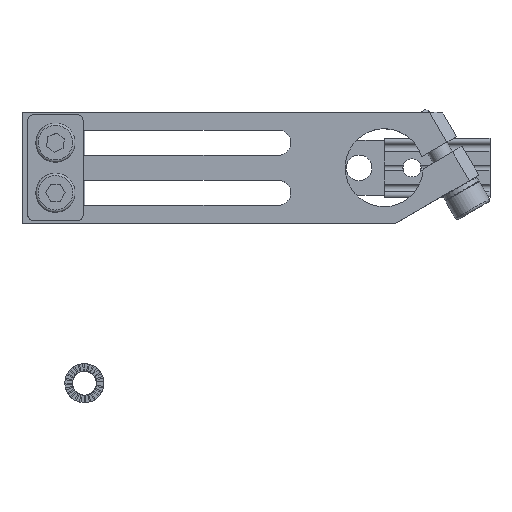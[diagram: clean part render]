
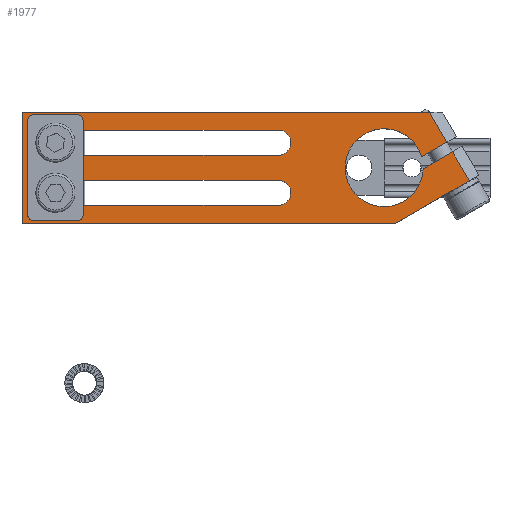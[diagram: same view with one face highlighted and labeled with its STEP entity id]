
A CAD part, top view. The second image highlights one B-rep face of the part: STEP entity #1977.
In plain terms, the highlighted planar face has unit normal (0, 0, 1).
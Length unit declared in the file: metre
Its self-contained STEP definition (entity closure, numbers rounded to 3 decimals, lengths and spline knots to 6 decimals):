
#1977 = ADVANCED_FACE( '', ( #4019, #4020, #4021 ), #4022, .F. );
#4019 = FACE_BOUND( '', #5046, .T. );
#4020 = FACE_BOUND( '', #5047, .T. );
#4021 = FACE_OUTER_BOUND( '', #5048, .T. );
#4022 = PLANE( '', #5049 );
#5046 = EDGE_LOOP( '', ( #6477, #6478, #6479, #6480 ) );
#5047 = EDGE_LOOP( '', ( #6481, #6482, #6483, #6484 ) );
#5048 = EDGE_LOOP( '', ( #6485, #6486, #6487, #6488, #6489, #6490, #6491, #6492, #6493 ) );
#5049 = AXIS2_PLACEMENT_3D( '', #6494, #6495, #6496 );
#6477 = ORIENTED_EDGE( '', *, *, #8825, .F. );
#6478 = ORIENTED_EDGE( '', *, *, #8829, .F. );
#6479 = ORIENTED_EDGE( '', *, *, #8830, .F. );
#6480 = ORIENTED_EDGE( '', *, *, #8831, .F. );
#6481 = ORIENTED_EDGE( '', *, *, #8832, .F. );
#6482 = ORIENTED_EDGE( '', *, *, #8833, .F. );
#6483 = ORIENTED_EDGE( '', *, *, #8834, .F. );
#6484 = ORIENTED_EDGE( '', *, *, #8835, .F. );
#6485 = ORIENTED_EDGE( '', *, *, #8836, .T. );
#6486 = ORIENTED_EDGE( '', *, *, #8837, .T. );
#6487 = ORIENTED_EDGE( '', *, *, #8838, .F. );
#6488 = ORIENTED_EDGE( '', *, *, #8839, .F. );
#6489 = ORIENTED_EDGE( '', *, *, #8840, .F. );
#6490 = ORIENTED_EDGE( '', *, *, #8822, .T. );
#6491 = ORIENTED_EDGE( '', *, *, #8841, .F. );
#6492 = ORIENTED_EDGE( '', *, *, #8842, .F. );
#6493 = ORIENTED_EDGE( '', *, *, #8843, .F. );
#6494 = CARTESIAN_POINT( '', ( -0.065, 0.01, 0.01 ) );
#6495 = DIRECTION( '', ( 0., 0., -1. ) );
#6496 = DIRECTION( '', ( -1., 0., 0. ) );
#8822 = EDGE_CURVE( '', #10035, #10037, #10039, .T. );
#8825 = EDGE_CURVE( '', #10043, #10045, #10046, .T. );
#8829 = EDGE_CURVE( '', #10050, #10043, #10052, .T. );
#8830 = EDGE_CURVE( '', #10053, #10050, #10054, .T. );
#8831 = EDGE_CURVE( '', #10045, #10053, #10055, .T. );
#8832 = EDGE_CURVE( '', #10056, #10057, #10058, .T. );
#8833 = EDGE_CURVE( '', #10059, #10056, #10060, .T. );
#8834 = EDGE_CURVE( '', #10061, #10059, #10062, .T. );
#8835 = EDGE_CURVE( '', #10057, #10061, #10063, .T. );
#8836 = EDGE_CURVE( '', #10064, #10065, #10066, .T. );
#8837 = EDGE_CURVE( '', #10065, #10067, #10068, .T. );
#8838 = EDGE_CURVE( '', #10069, #10067, #10070, .T. );
#8839 = EDGE_CURVE( '', #10071, #10069, #10072, .F. );
#8840 = EDGE_CURVE( '', #10035, #10071, #10073, .T. );
#8841 = EDGE_CURVE( '', #10074, #10037, #10075, .T. );
#8842 = EDGE_CURVE( '', #10076, #10074, #10077, .T. );
#8843 = EDGE_CURVE( '', #10064, #10076, #10078, .T. );
#10035 = VERTEX_POINT( '', #10467 );
#10037 = VERTEX_POINT( '', #10470 );
#10039 = LINE( '', #10473, #10474 );
#10043 = VERTEX_POINT( '', #10479 );
#10045 = VERTEX_POINT( '', #10482 );
#10046 = LINE( '', #10483, #10484 );
#10050 = VERTEX_POINT( '', #10489 );
#10052 = CIRCLE( '', #10492, 0.00225 );
#10053 = VERTEX_POINT( '', #10493 );
#10054 = LINE( '', #10494, #10495 );
#10055 = CIRCLE( '', #10496, 0.00225 );
#10056 = VERTEX_POINT( '', #10497 );
#10057 = VERTEX_POINT( '', #10498 );
#10058 = LINE( '', #10499, #10500 );
#10059 = VERTEX_POINT( '', #10501 );
#10060 = CIRCLE( '', #10502, 0.00225 );
#10061 = VERTEX_POINT( '', #10503 );
#10062 = LINE( '', #10504, #10505 );
#10063 = CIRCLE( '', #10506, 0.00225 );
#10064 = VERTEX_POINT( '', #10507 );
#10065 = VERTEX_POINT( '', #10508 );
#10066 = LINE( '', #10509, #10510 );
#10067 = VERTEX_POINT( '', #10511 );
#10068 = LINE( '', #10512, #10513 );
#10069 = VERTEX_POINT( '', #10514 );
#10070 = LINE( '', #10515, #10516 );
#10071 = VERTEX_POINT( '', #10517 );
#10072 = CIRCLE( '', #10518, 0.007 );
#10073 = LINE( '', #10519, #10520 );
#10074 = VERTEX_POINT( '', #10521 );
#10075 = LINE( '', #10522, #10523 );
#10076 = VERTEX_POINT( '', #10524 );
#10077 = LINE( '', #10525, #10526 );
#10078 = LINE( '', #10527, #10528 );
#10467 = CARTESIAN_POINT( '', ( 0.011268, 0.004588, 0.01 ) );
#10470 = CARTESIAN_POINT( '', ( 0.008144, 0.01, 0.01 ) );
#10473 = CARTESIAN_POINT( '', ( -0.010142, 0.041672, 0.01 ) );
#10474 = VECTOR( '', #11133, 1. );
#10479 = CARTESIAN_POINT( '', ( -0.019, 0.00675, 0.01 ) );
#10482 = CARTESIAN_POINT( '', ( -0.059, 0.00675, 0.01 ) );
#10483 = CARTESIAN_POINT( '', ( -0.019, 0.00675, 0.01 ) );
#10484 = VECTOR( '', #11136, 1. );
#10489 = CARTESIAN_POINT( '', ( -0.019, 0.00225, 0.01 ) );
#10492 = AXIS2_PLACEMENT_3D( '', #11142, #11143, #11144 );
#10493 = CARTESIAN_POINT( '', ( -0.059, 0.00225, 0.01 ) );
#10494 = CARTESIAN_POINT( '', ( -0.019, 0.00225, 0.01 ) );
#10495 = VECTOR( '', #11145, 1. );
#10496 = AXIS2_PLACEMENT_3D( '', #11146, #11147, #11148 );
#10497 = CARTESIAN_POINT( '', ( -0.019, -0.00225, 0.01 ) );
#10498 = CARTESIAN_POINT( '', ( -0.059, -0.00225, 0.01 ) );
#10499 = CARTESIAN_POINT( '', ( -0.019, -0.00225, 0.01 ) );
#10500 = VECTOR( '', #11149, 1. );
#10501 = CARTESIAN_POINT( '', ( -0.019, -0.00675, 0.01 ) );
#10502 = AXIS2_PLACEMENT_3D( '', #11150, #11151, #11152 );
#10503 = CARTESIAN_POINT( '', ( -0.059, -0.00675, 0.01 ) );
#10504 = CARTESIAN_POINT( '', ( -0.019, -0.00675, 0.01 ) );
#10505 = VECTOR( '', #11153, 1. );
#10506 = AXIS2_PLACEMENT_3D( '', #11154, #11155, #11156 );
#10507 = CARTESIAN_POINT( '', ( 0.002, -0.01, 0.01 ) );
#10508 = CARTESIAN_POINT( '', ( 0.015268, -0.00234, 0.01 ) );
#10509 = CARTESIAN_POINT( '', ( -0.03959, -0.034012, 0.01 ) );
#10510 = VECTOR( '', #11157, 1. );
#10511 = CARTESIAN_POINT( '', ( 0.012268, 0.002856, 0.01 ) );
#10512 = CARTESIAN_POINT( '', ( -0.010142, 0.041672, 0.01 ) );
#10513 = VECTOR( '', #11158, 1. );
#10514 = CARTESIAN_POINT( '', ( 0.006998, -0.000186, 0.01 ) );
#10515 = CARTESIAN_POINT( '', ( 0.00101, -0.003644, 0.01 ) );
#10516 = VECTOR( '', #11159, 1. );
#10517 = CARTESIAN_POINT( '', ( 0.006719, 0.001962, 0.01 ) );
#10518 = AXIS2_PLACEMENT_3D( '', #11160, #11161, #11162 );
#10519 = CARTESIAN_POINT( '', ( 0.013, 0.005588, 0.01 ) );
#10520 = VECTOR( '', #11163, 1. );
#10521 = CARTESIAN_POINT( '', ( -0.065, 0.01, 0.01 ) );
#10522 = CARTESIAN_POINT( '', ( -0.065, 0.01, 0.01 ) );
#10523 = VECTOR( '', #11164, 1. );
#10524 = CARTESIAN_POINT( '', ( -0.065, -0.01, 0.01 ) );
#10525 = CARTESIAN_POINT( '', ( -0.065, -0.01, 0.01 ) );
#10526 = VECTOR( '', #11165, 1. );
#10527 = CARTESIAN_POINT( '', ( 0.017, -0.01, 0.01 ) );
#10528 = VECTOR( '', #11166, 1. );
#11133 = DIRECTION( '', ( -0.5, 0.866, 0. ) );
#11136 = DIRECTION( '', ( -1., 0., 0. ) );
#11142 = CARTESIAN_POINT( '', ( -0.019, 0.0045, 0.01 ) );
#11143 = DIRECTION( '', ( 0., 0., 1. ) );
#11144 = DIRECTION( '', ( 0., -1., 0. ) );
#11145 = DIRECTION( '', ( 1., 0., 0. ) );
#11146 = CARTESIAN_POINT( '', ( -0.059, 0.0045, 0.01 ) );
#11147 = DIRECTION( '', ( 0., 0., 1. ) );
#11148 = DIRECTION( '', ( 0., 1., 0. ) );
#11149 = DIRECTION( '', ( -1., 0., 0. ) );
#11150 = CARTESIAN_POINT( '', ( -0.019, -0.0045, 0.01 ) );
#11151 = DIRECTION( '', ( 0., 0., 1. ) );
#11152 = DIRECTION( '', ( 0., -1., 0. ) );
#11153 = DIRECTION( '', ( 1., 0., 0. ) );
#11154 = CARTESIAN_POINT( '', ( -0.059, -0.0045, 0.01 ) );
#11155 = DIRECTION( '', ( 0., 0., 1. ) );
#11156 = DIRECTION( '', ( 0., 1., 0. ) );
#11157 = DIRECTION( '', ( 0.866, 0.5, 0. ) );
#11158 = DIRECTION( '', ( -0.5, 0.866, 0. ) );
#11159 = DIRECTION( '', ( 0.866, 0.5, 0. ) );
#11160 = CARTESIAN_POINT( '', ( 0., 0., 0.01 ) );
#11161 = DIRECTION( '', ( 0., 0., -1. ) );
#11162 = DIRECTION( '', ( -1., 0., 0. ) );
#11163 = DIRECTION( '', ( -0.866, -0.5, 0. ) );
#11164 = DIRECTION( '', ( 1., 0., 0. ) );
#11165 = DIRECTION( '', ( 0., 1., 0. ) );
#11166 = DIRECTION( '', ( -1., 0., 0. ) );
